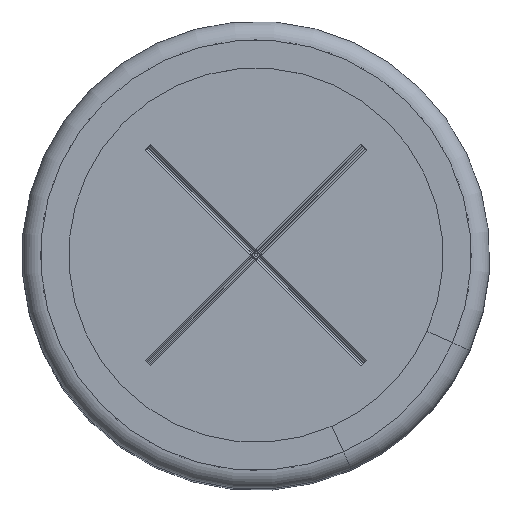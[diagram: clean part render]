
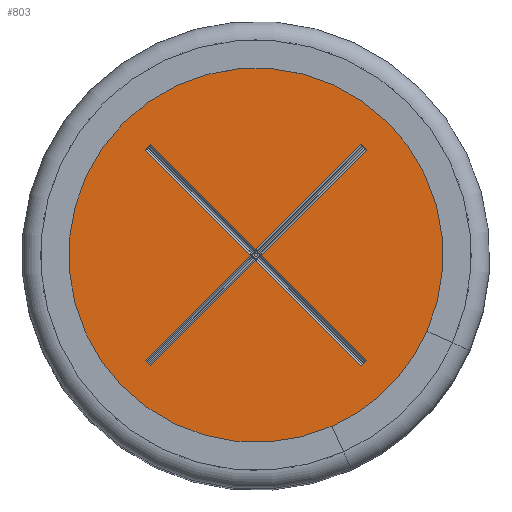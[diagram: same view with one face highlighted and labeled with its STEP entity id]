
A CAD part, top view. The second image highlights one B-rep face of the part: STEP entity #803.
In plain terms, the highlighted planar face has unit normal (0, 0, 1).
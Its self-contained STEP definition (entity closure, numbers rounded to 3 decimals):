
#176=FACE_BOUND('',#1284,.T.);
#177=FACE_BOUND('',#1285,.T.);
#687=PLANE('',#4047);
#803=ADVANCED_FACE('',(#176,#177),#687,.T.);
#1284=EDGE_LOOP('',(#2130));
#1285=EDGE_LOOP('',(#2131,#2132,#2133,#2134,#2135,#2136,#2137,#2138,#2139,
#2140,#2141,#2142));
#1517=LINE('',#5710,#1771);
#1518=LINE('',#5713,#1772);
#1519=LINE('',#5715,#1773);
#1520=LINE('',#5717,#1774);
#1521=LINE('',#5719,#1775);
#1522=LINE('',#5721,#1776);
#1523=LINE('',#5723,#1777);
#1524=LINE('',#5725,#1778);
#1525=LINE('',#5727,#1779);
#1526=LINE('',#5729,#1780);
#1527=LINE('',#5731,#1781);
#1528=LINE('',#5733,#1782);
#1771=VECTOR('',#4590,1.);
#1772=VECTOR('',#4591,1.);
#1773=VECTOR('',#4592,1.);
#1774=VECTOR('',#4593,1.);
#1775=VECTOR('',#4594,1.);
#1776=VECTOR('',#4595,1.);
#1777=VECTOR('',#4596,1.);
#1778=VECTOR('',#4597,1.);
#1779=VECTOR('',#4598,1.);
#1780=VECTOR('',#4599,1.);
#1781=VECTOR('',#4600,1.);
#1782=VECTOR('',#4601,1.);
#2130=ORIENTED_EDGE('',*,*,#3368,.F.);
#2131=ORIENTED_EDGE('',*,*,#3369,.T.);
#2132=ORIENTED_EDGE('',*,*,#3370,.T.);
#2133=ORIENTED_EDGE('',*,*,#3371,.T.);
#2134=ORIENTED_EDGE('',*,*,#3372,.F.);
#2135=ORIENTED_EDGE('',*,*,#3373,.T.);
#2136=ORIENTED_EDGE('',*,*,#3374,.T.);
#2137=ORIENTED_EDGE('',*,*,#3375,.F.);
#2138=ORIENTED_EDGE('',*,*,#3376,.T.);
#2139=ORIENTED_EDGE('',*,*,#3377,.T.);
#2140=ORIENTED_EDGE('',*,*,#3378,.T.);
#2141=ORIENTED_EDGE('',*,*,#3379,.T.);
#2142=ORIENTED_EDGE('',*,*,#3380,.T.);
#3038=VERTEX_POINT('',#5709);
#3039=VERTEX_POINT('',#5711);
#3040=VERTEX_POINT('',#5712);
#3041=VERTEX_POINT('',#5714);
#3042=VERTEX_POINT('',#5716);
#3043=VERTEX_POINT('',#5718);
#3044=VERTEX_POINT('',#5720);
#3045=VERTEX_POINT('',#5722);
#3046=VERTEX_POINT('',#5724);
#3047=VERTEX_POINT('',#5726);
#3048=VERTEX_POINT('',#5728);
#3049=VERTEX_POINT('',#5730);
#3050=VERTEX_POINT('',#5732);
#3368=EDGE_CURVE('',#3038,#3038,#3826,.T.);
#3369=EDGE_CURVE('',#3039,#3040,#1517,.T.);
#3370=EDGE_CURVE('',#3040,#3041,#1518,.T.);
#3371=EDGE_CURVE('',#3041,#3042,#1519,.T.);
#3372=EDGE_CURVE('',#3043,#3042,#1520,.T.);
#3373=EDGE_CURVE('',#3043,#3044,#1521,.T.);
#3374=EDGE_CURVE('',#3044,#3045,#1522,.T.);
#3375=EDGE_CURVE('',#3046,#3045,#1523,.T.);
#3376=EDGE_CURVE('',#3046,#3047,#1524,.T.);
#3377=EDGE_CURVE('',#3047,#3048,#1525,.T.);
#3378=EDGE_CURVE('',#3048,#3049,#1526,.T.);
#3379=EDGE_CURVE('',#3049,#3050,#1527,.T.);
#3380=EDGE_CURVE('',#3050,#3039,#1528,.T.);
#3826=CIRCLE('',#4046,11.5);
#4046=AXIS2_PLACEMENT_3D('',#5708,#4588,#4589);
#4047=AXIS2_PLACEMENT_3D('',#5734,#4602,#4603);
#4588=DIRECTION('',(0.,0.,-1.));
#4589=DIRECTION('',(-1.,0.,0.));
#4590=DIRECTION('',(0.707,-0.707,0.));
#4591=DIRECTION('',(-0.707,-0.707,0.));
#4592=DIRECTION('',(0.707,-0.707,0.));
#4593=DIRECTION('',(0.707,0.707,0.));
#4594=DIRECTION('',(-0.707,0.707,0.));
#4595=DIRECTION('',(-0.707,-0.707,0.));
#4596=DIRECTION('',(0.707,-0.707,0.));
#4597=DIRECTION('',(0.707,0.707,0.));
#4598=DIRECTION('',(-0.707,0.707,0.));
#4599=DIRECTION('',(0.707,0.707,0.));
#4600=DIRECTION('',(0.707,-0.707,0.));
#4601=DIRECTION('',(0.707,0.707,0.));
#4602=DIRECTION('',(0.,0.,1.));
#4603=DIRECTION('',(1.,0.,0.));
#5708=CARTESIAN_POINT('',(0.,0.,44.8));
#5709=CARTESIAN_POINT('',(-11.5,0.,44.8));
#5710=CARTESIAN_POINT('',(5.657,5.869,44.8));
#5711=CARTESIAN_POINT('',(5.613,5.913,44.8));
#5712=CARTESIAN_POINT('',(5.913,5.613,44.8));
#5713=CARTESIAN_POINT('',(-5.6,-5.9,44.8));
#5714=CARTESIAN_POINT('',(0.3,0.,44.8));
#5715=CARTESIAN_POINT('',(-5.6,5.9,44.8));
#5716=CARTESIAN_POINT('',(5.913,-5.613,44.8));
#5717=CARTESIAN_POINT('',(5.869,-5.657,44.8));
#5718=CARTESIAN_POINT('',(5.613,-5.913,44.8));
#5719=CARTESIAN_POINT('',(-5.9,5.6,44.8));
#5720=CARTESIAN_POINT('',(0.,-0.3,44.8));
#5721=CARTESIAN_POINT('',(-5.6,-5.9,44.8));
#5722=CARTESIAN_POINT('',(-5.613,-5.913,44.8));
#5723=CARTESIAN_POINT('',(-5.869,-5.657,44.8));
#5724=CARTESIAN_POINT('',(-5.913,-5.613,44.8));
#5725=CARTESIAN_POINT('',(-5.9,-5.6,44.8));
#5726=CARTESIAN_POINT('',(-0.3,0.,44.8));
#5727=CARTESIAN_POINT('',(-5.9,5.6,44.8));
#5728=CARTESIAN_POINT('',(-5.913,5.613,44.8));
#5729=CARTESIAN_POINT('',(-5.657,5.869,44.8));
#5730=CARTESIAN_POINT('',(-5.613,5.913,44.8));
#5731=CARTESIAN_POINT('',(-5.6,5.9,44.8));
#5732=CARTESIAN_POINT('',(0.,0.3,44.8));
#5733=CARTESIAN_POINT('',(-5.9,-5.6,44.8));
#5734=CARTESIAN_POINT('',(-11.5,0.,44.8));
